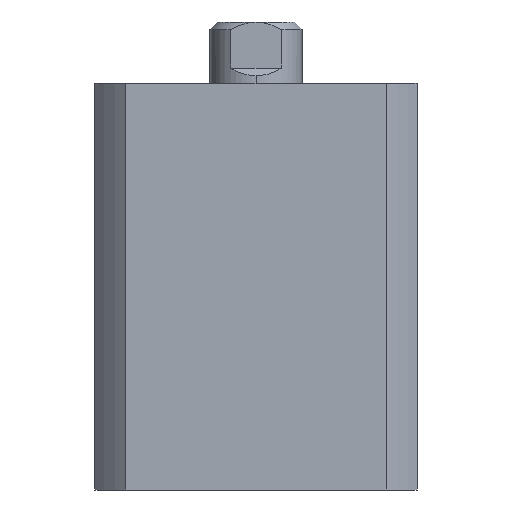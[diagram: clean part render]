
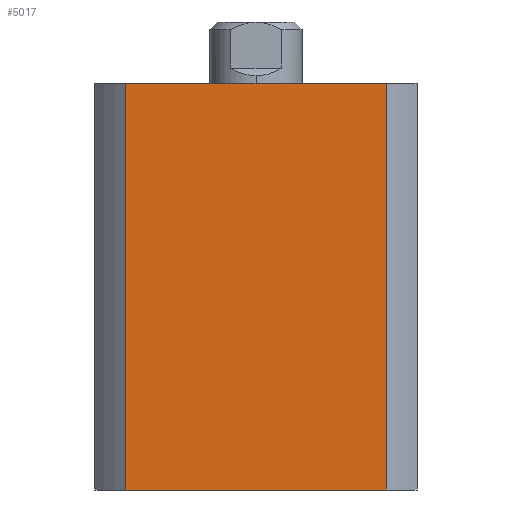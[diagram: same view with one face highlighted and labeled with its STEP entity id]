
A CAD part, left-side view. The second image highlights one B-rep face of the part: STEP entity #5017.
In plain terms, the highlighted planar face has unit normal (-1, 0, 0).
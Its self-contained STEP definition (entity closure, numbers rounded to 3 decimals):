
#281 = CARTESIAN_POINT ( 'NONE',  ( -21., -16.971, 53. ) ) ;
#290 = CARTESIAN_POINT ( 'NONE',  ( -21., 16.971, 0. ) ) ;
#300 = CARTESIAN_POINT ( 'NONE',  ( -21., -16.971, 0. ) ) ;
#313 = CARTESIAN_POINT ( 'NONE',  ( -21., 16.971, 53. ) ) ;
#721 = DIRECTION ( 'NONE',  ( 0., 0., 1. ) ) ;
#722 = CARTESIAN_POINT ( 'NONE',  ( -21., 16.971, 53. ) ) ;
#729 = DIRECTION ( 'NONE',  ( 0., 0., -1. ) ) ;
#736 = CARTESIAN_POINT ( 'NONE',  ( -21., -16.971, 53. ) ) ;
#870 = EDGE_LOOP ( 'NONE', ( #1167, #1166, #1165, #1170 ) ) ;
#987 = VERTEX_POINT ( 'NONE', #313 ) ;
#1000 = VERTEX_POINT ( 'NONE', #300 ) ;
#1017 = VERTEX_POINT ( 'NONE', #290 ) ;
#1026 = VERTEX_POINT ( 'NONE', #281 ) ;
#1165 = ORIENTED_EDGE ( 'NONE', *, *, #3422, .F. ) ;
#1166 = ORIENTED_EDGE ( 'NONE', *, *, #3365, .F. ) ;
#1167 = ORIENTED_EDGE ( 'NONE', *, *, #3413, .F. ) ;
#1170 = ORIENTED_EDGE ( 'NONE', *, *, #3666, .T. ) ;
#1387 = FACE_OUTER_BOUND ( 'NONE', #870, .T. ) ;
#2077 = AXIS2_PLACEMENT_3D ( 'NONE', #3620, #3640, #3642 ) ;
#2126 = VECTOR ( 'NONE', #2455, 1000. ) ;
#2128 = LINE ( 'NONE', #2448, #2126 ) ;
#2448 = CARTESIAN_POINT ( 'NONE',  ( -21., 21., 53. ) ) ;
#2455 = DIRECTION ( 'NONE',  ( 0., -1., 0. ) ) ;
#2927 = VECTOR ( 'NONE', #4278, 1000. ) ;
#2930 = LINE ( 'NONE', #4280, #2927 ) ;
#3114 = VECTOR ( 'NONE', #721, 1000. ) ;
#3123 = LINE ( 'NONE', #722, #3114 ) ;
#3134 = VECTOR ( 'NONE', #729, 1000. ) ;
#3140 = LINE ( 'NONE', #736, #3134 ) ;
#3365 = EDGE_CURVE ( 'NONE', #987, #1026, #2128, .T. ) ;
#3413 = EDGE_CURVE ( 'NONE', #1026, #1000, #3140, .T. ) ;
#3422 = EDGE_CURVE ( 'NONE', #1017, #987, #3123, .T. ) ;
#3578 = PLANE ( 'NONE',  #2077 ) ;
#3620 = CARTESIAN_POINT ( 'NONE',  ( -21., 21., 53. ) ) ;
#3640 = DIRECTION ( 'NONE',  ( 1., 0., 0. ) ) ;
#3642 = DIRECTION ( 'NONE',  ( 0., 1., 0. ) ) ;
#3666 = EDGE_CURVE ( 'NONE', #1017, #1000, #2930, .T. ) ;
#4278 = DIRECTION ( 'NONE',  ( 0., -1., 0. ) ) ;
#4280 = CARTESIAN_POINT ( 'NONE',  ( -21., 21., 0. ) ) ;
#5017 = ADVANCED_FACE ( 'NONE', ( #1387 ), #3578, .F. ) ;
